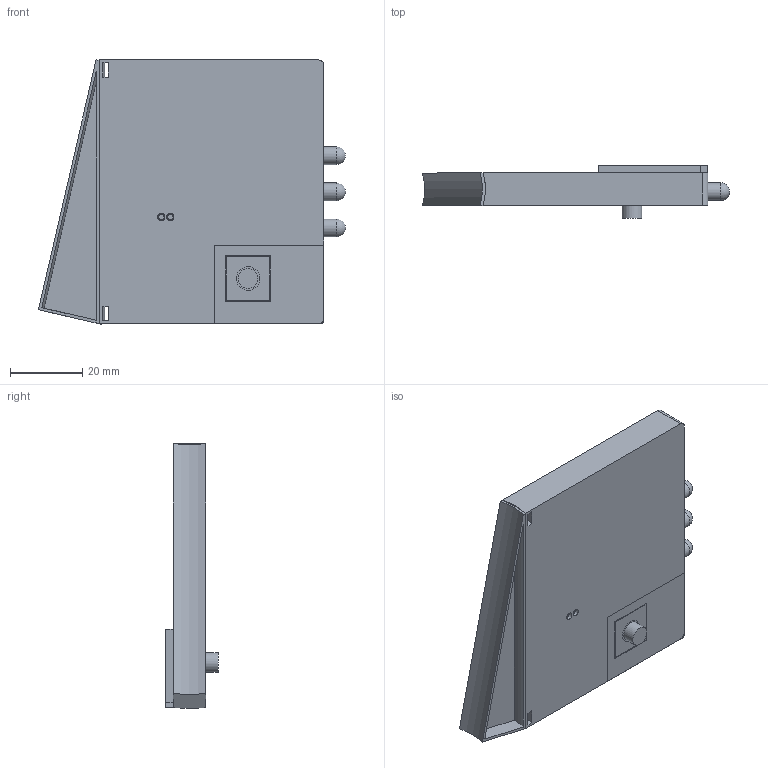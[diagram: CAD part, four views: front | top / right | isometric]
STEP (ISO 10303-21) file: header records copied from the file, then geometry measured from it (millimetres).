
FILE_DESCRIPTION(/* description */ ('Unknown'),/* implementation_level */ '2;1');
FILE_NAME(/* name */ 'BikeLight_Rear_Race',/* time_stamp */ '2020-07-23T22:24:03+02:00',/* author */ ('Unknown'),/* organization */ ('Unknown'),/* preprocessor_version */ 'ST-DEVELOPER v16.7',/* originating_system */ 'Solid Edge',/* authorisation */ 'Unknown');
FILE_SCHEMA (('AUTOMOTIVE_DESIGN {1 0 10303 214 3 1 1}'));
Length unit declared in the file: millimetre
Products named in the file (9): BikeLight_Rear_Race; Li_Battery_3.7V_240mAh; SolarPanel_6V_0.5W; Mobile_Charger_PCB_New; Holder_light_rear_Race_adapter; Holder_light_3LED_rear_Race; switch_12x12x9; Tool_light_rear_slim; LED_rear
Assembly tree (8 placements, depth 2):
  BikeLight_Rear_Race
    Li_Battery_3.7V_240mAh
    SolarPanel_6V_0.5W
    Mobile_Charger_PCB_New
    Holder_light_rear_Race_adapter
    Holder_light_3LED_rear_Race
    switch_12x12x9
    Tool_light_rear_slim
    LED_rear
Bounding box: 85.03 x 14.5 x 73.2 mm (x, y, z)
Volume: 27047.7 mm3; surface area: 33455.7 mm2
Topology: 10 solids, 10 shells, 174 faces, 419 edges, 277 vertices
Faces by surface type: plane 130, cylinder 41, sphere 3
Full cylindrical faces by diameter (mm): 1.5 x2, 2 x2, 3 x3, 4.9 x3, 5.5 x1, 5.6 x3, 6.5 x1
Entity records: 5164 total; most frequent: CARTESIAN_POINT 849, DIRECTION 848, ORIENTED_EDGE 784, EDGE_CURVE 392, LINE 298, VECTOR 298, AXIS2_PLACEMENT_3D 275, VERTEX_POINT 268
